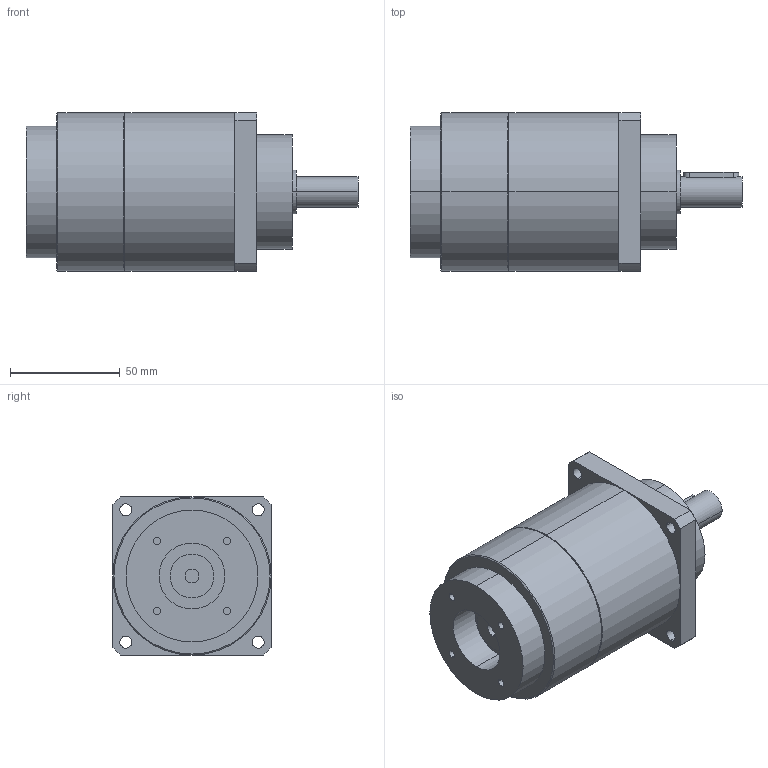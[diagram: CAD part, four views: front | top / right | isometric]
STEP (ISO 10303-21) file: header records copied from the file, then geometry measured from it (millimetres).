
FILE_DESCRIPTION(('CoCreate Modeling STEP Export'),'2;1');
FILE_NAME('GPT75_ig-9-12-16-20-25-28-35-40-50-70-100_14_B5T_6.35_P16.stp','2014-08-27T13:38:48',(''),(''),'CoCreate Modeling STEP processor for AP214 (Solid Model)','CoCreate Modeling 16.00C 25-Feb-2009 (C) Parametric Technology GmbH','');
FILE_SCHEMA(('AUTOMOTIVE_DESIGN { 1 0 10303 214 1 1 1 1 }'));
Length unit declared in the file: millimetre
Products named in the file (2): GPT75_ig-9-12-16-20-25-28-35-40-50-70-100_14_B5T_6.35_P16
Assembly tree (1 placements, depth 2):
  GPT75_ig-9-12-16-20-25-28-35-40-50-70-100_14_B5T_6.35_P16
    GPT75_ig-9-12-16-20-25-28-35-40-50-70-100_14_B5T_6.35_P16
Bounding box: 151 x 72 x 72 mm (x, y, z)
Volume: 448563.1 mm3; surface area: 41755.9 mm2
Topology: 1 solids, 1 shells, 72 faces, 170 edges, 113 vertices
Faces by surface type: cylinder 42, plane 26, cone 4
Entity records: 2201 total; most frequent: CARTESIAN_POINT 669, ORIENTED_EDGE 340, DIRECTION 268, EDGE_CURVE 170, VERTEX_POINT 113, AXIS2_PLACEMENT_3D 100, EDGE_LOOP 93, FACE_OUTER_BOUND 72
